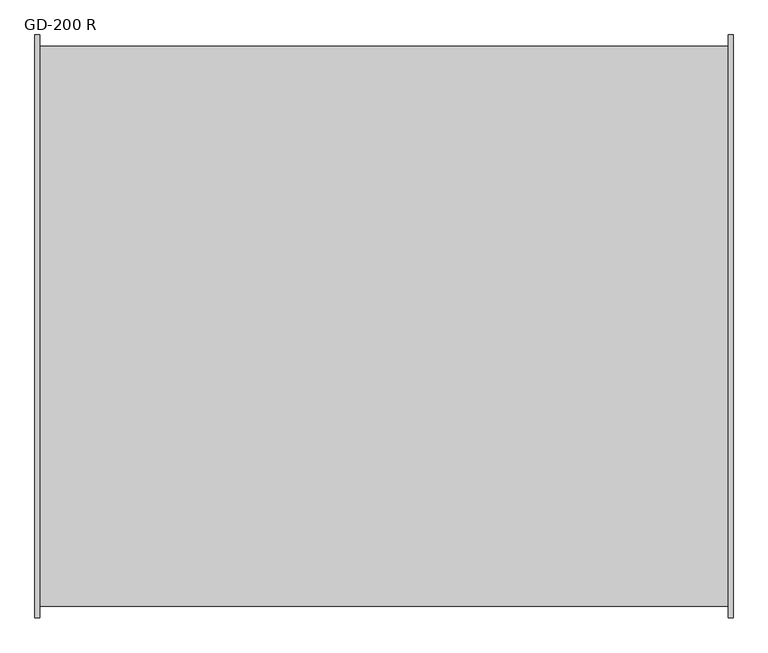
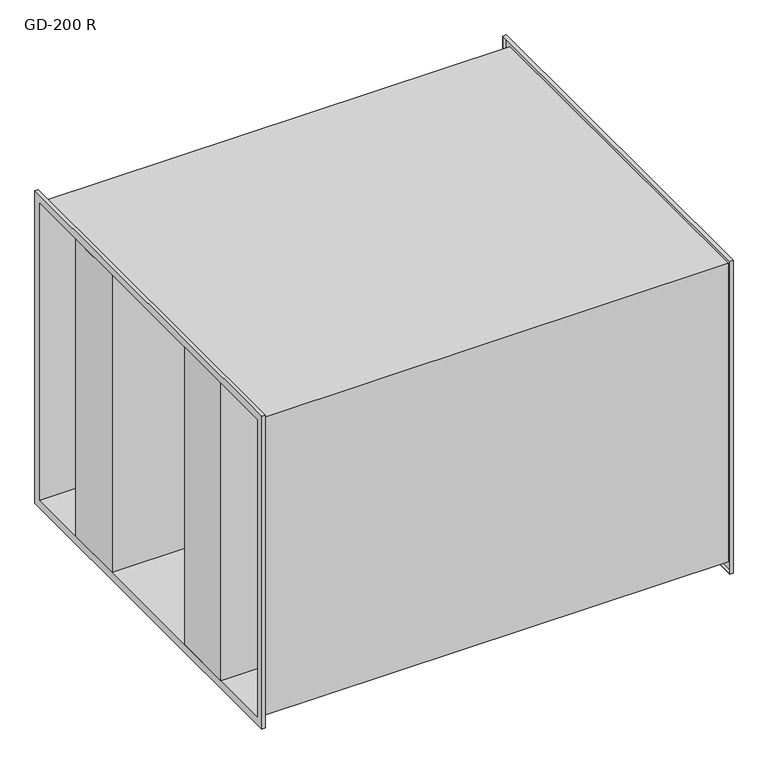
"""IFC4 building model written with IfcOpenShell, lengths in millimetres: damper geometry, NLRS_57_DUA_UN_Coulissengeluiddempers_SMA : GD-200 R."""

import ifcopenshell
import ifcopenshell.guid

model = None  # the IFC model being written
_history = None  # IfcOwnerHistory: only IFC2X3 demands one
_inside = {}  # id of a spatial element -> (the spatial element, [elements in it])
_under = {}  # id of a project, library or spatial element -> (it, [spatial elements below it])
_declared = {}  # id of a project -> (the project, [libraries it declares])
_typed = {}  # id of a type object -> (the type object, [elements of that type])
_made_of = {}  # id of a material, layer set ... -> (it, [elements and type objects made of it])


def new_model(schema):
    """Start an empty IFC model of exactly this schema.

    Asked for "IFC4X3", IfcOpenShell would pick the latest addendum, in which some entities
    have other attributes; the version numbers below select the first issue.
    IFC2X3 requires an IfcOwnerHistory on every rooted entity: one is made here for all.
    """
    global model, _history
    if schema == "IFC4X3":
        model = ifcopenshell.file(schema_version=(4, 3, 0, 0))
    else:
        model = ifcopenshell.file(schema=schema)
    _inside.clear()
    _under.clear()
    _declared.clear()
    _typed.clear()
    _made_of.clear()
    _history = None
    if model.schema == "IFC2X3":
        org = make("IfcOrganization", Name="unknown")
        user = make(
            "IfcPersonAndOrganization",
            ThePerson=make("IfcPerson", FamilyName="unknown"),
            TheOrganization=org,
        )
        app = make(
            "IfcApplication",
            ApplicationDeveloper=org,
            Version="unknown",
            ApplicationFullName="unknown",
            ApplicationIdentifier="unknown",
        )
        _history = make(
            "IfcOwnerHistory",
            OwningUser=user,
            OwningApplication=app,
            ChangeAction="ADDED",
            CreationDate=0,
        )
    return model


def make(cls, **values):
    """One entity of the class cls with the attributes given. An attribute that is None is left unset."""
    return model.create_entity(
        cls, **{name: value for name, value in values.items() if value is not None}
    )


def rooted(cls, **values):
    """An entity with a GlobalId (a new one), such as an element, a storey or a relation."""
    return make(cls, GlobalId=ifcopenshell.guid.new(), OwnerHistory=_history, **values)


def si_unit(unit_type, name, prefix=None):
    """IfcSIUnit, for example si_unit("LENGTHUNIT", "METRE", prefix="MILLI")."""
    return make("IfcSIUnit", UnitType=unit_type, Prefix=prefix, Name=name)


def assignment(units):
    """IfcUnitAssignment: the units of a project."""
    return None if units is None else make("IfcUnitAssignment", Units=units)


def point(xyz):
    """IfcCartesianPoint."""
    return None if xyz is None else make("IfcCartesianPoint", Coordinates=xyz)


def direction(xyz):
    """IfcDirection."""
    return None if xyz is None else make("IfcDirection", DirectionRatios=xyz)


def frame(location, z_axis=None, x_axis=None):
    """IfcAxis2Placement3D, a coordinate frame: its origin and axes. An axis left out is left unset."""
    return make(
        "IfcAxis2Placement3D",
        Location=point(location),
        Axis=direction(z_axis),
        RefDirection=direction(x_axis),
    )


def origin():
    """The frame at (0, 0, 0) with its axes left unset."""
    return frame((0.0, 0.0, 0.0))


def place(relative_to, where):
    """IfcLocalPlacement: puts the frame where relative to a parent placement (None: the world)."""
    return make(
        "IfcLocalPlacement", PlacementRelTo=relative_to, RelativePlacement=where
    )


def context(
    kind, dimensions, precision=None, world=None, true_north=None, identifier=None
):
    """IfcGeometricRepresentationContext, for example the 3D "Model" context."""
    return make(
        "IfcGeometricRepresentationContext",
        ContextIdentifier=identifier,
        ContextType=kind,
        CoordinateSpaceDimension=dimensions,
        Precision=precision,
        WorldCoordinateSystem=world,
        TrueNorth=true_north,
    )


def project(units=None, contexts=None):
    """IfcProject with its units and contexts."""
    return rooted(
        "IfcProject",
        Name="project",
        RepresentationContexts=contexts,
        UnitsInContext=assignment(units),
    )


def spatial(cls, under=None, at=None, **own):
    """A site, building, storey or space (cls), placed at a placement, below another one or the project."""
    s = rooted(cls, ObjectPlacement=at, **own)
    if under is not None:
        _under.setdefault(under.id(), (under, []))[1].append(s)
    return s


def polyline(points):
    """IfcPolyline through the points."""
    return make("IfcPolyline", Points=[point(p) for p in points])


def outline(outer, holes=None, kind="AREA"):
    """IfcArbitraryClosedProfileDef: a profile drawn as a closed curve; with holes, ...WithVoids."""
    if holes is None:
        return make("IfcArbitraryClosedProfileDef", ProfileType=kind, OuterCurve=outer)
    return make(
        "IfcArbitraryProfileDefWithVoids",
        ProfileType=kind,
        OuterCurve=outer,
        InnerCurves=holes,
    )


def extrude(swept, where, along, depth):
    """IfcExtrudedAreaSolid: the profile swept, set in the frame where, extruded along a direction by depth."""
    return make(
        "IfcExtrudedAreaSolid",
        SweptArea=swept,
        Position=where,
        ExtrudedDirection=direction(along),
        Depth=depth,
    )


def faces_of(points, faces, orient=None, outer=None):
    """IfcFace entities. A face is a list of loops; a loop is a list of indices into points, from 0.

    orient and outer hold one flag for each loop. By default every Orientation is true, the
    first loop of a face is its IfcFaceOuterBound and the others are IfcFaceBound.
    """
    made = []
    for i, loops in enumerate(faces):
        bounds = []
        for j, loop in enumerate(loops):
            is_outer = j == 0 if outer is None else outer[i][j]
            bounds.append(
                make(
                    "IfcFaceOuterBound" if is_outer else "IfcFaceBound",
                    Bound=make("IfcPolyLoop", Polygon=[points[k] for k in loop]),
                    Orientation=True if orient is None else orient[i][j],
                )
            )
        made.append(make("IfcFace", Bounds=bounds))
    return made


def faceted_brep(points, faces, orient=None, outer=None, voids=None):
    """IfcFacetedBrep: a solid bounded by flat faces; with voids (closed shells), ...WithVoids."""
    shared = [point(p) for p in points]
    hull = make("IfcClosedShell", CfsFaces=faces_of(shared, faces, orient, outer))
    if voids is None:
        return make("IfcFacetedBrep", Outer=hull)
    return make(
        "IfcFacetedBrepWithVoids",
        Outer=hull,
        Voids=[
            make(cls, CfsFaces=faces_of(shared, fs, o, b)) for cls, fs, o, b in voids
        ],
    )


def shape(context_of_items, identifier, shape_type, items):
    """IfcShapeRepresentation: the items that make up one representation, for example the "Body"."""
    return make(
        "IfcShapeRepresentation",
        ContextOfItems=context_of_items,
        RepresentationIdentifier=identifier,
        RepresentationType=shape_type,
        Items=items,
    )


def source(mapping_origin, context_of_items, identifier, shape_type, items):
    """IfcRepresentationMap: a shape defined once, which mapped items show again and again."""
    return make(
        "IfcRepresentationMap",
        MappingOrigin=mapping_origin,
        MappedRepresentation=shape(context_of_items, identifier, shape_type, items),
    )


def transform(
    local_origin,
    x_axis=None,
    y_axis=None,
    z_axis=None,
    scale=None,
    scale2=None,
    scale3=None,
    uniform=True,
):
    """IfcCartesianTransformationOperator3D, or its non-uniform kind. x_axis, y_axis, z_axis: its Axis1, 2, 3."""
    if uniform:
        return make(
            "IfcCartesianTransformationOperator3D",
            Axis1=direction(x_axis),
            Axis2=direction(y_axis),
            LocalOrigin=point(local_origin),
            Scale=scale,
            Axis3=direction(z_axis),
        )
    return make(
        "IfcCartesianTransformationOperator3DnonUniform",
        Axis1=direction(x_axis),
        Axis2=direction(y_axis),
        LocalOrigin=point(local_origin),
        Scale=scale,
        Axis3=direction(z_axis),
        Scale2=scale2,
        Scale3=scale3,
    )


def mapped(mapping_source, mapping_target):
    """IfcMappedItem: shows the shape of a source again, moved by a transform."""
    return make(
        "IfcMappedItem", MappingSource=mapping_source, MappingTarget=mapping_target
    )


def made_of(thing, what):
    """Note that an element or type object is made of a material, layer set ...; save() writes the relation."""
    if what is not None:
        _made_of.setdefault(what.id(), (what, []))[1].append(thing)
    return thing


def element(
    cls,
    number,
    at=None,
    inside=None,
    cuts=None,
    type_object=None,
    material=None,
    context=None,
    identifier="Body",
    shape_type=None,
    held_by="IfcProductDefinitionShape",
    body=None,
    shapes=None,
    **own,
):
    """One element of the class cls, such as IfcWall. Its Tag is "e" and its number.

    at: its placement. inside: the storey or other place that contains it. cuts: it is an
    opening in that element (IfcRelVoidsElement). A single representation is given by context,
    identifier, shape_type and body (its items); several are given by shapes. held_by: the class
    of the entity that holds the representations. save() writes the other relations.
    """
    e = rooted(cls, Tag="e%d" % number, ObjectPlacement=at, **own)
    if body is not None:
        shapes = [shape(context, identifier, shape_type, body)]
    if shapes is not None:
        e.Representation = make(held_by, Representations=shapes)
    if inside is not None:
        _inside.setdefault(inside.id(), (inside, []))[1].append(e)
    if cuts is not None:
        rooted(
            "IfcRelVoidsElement", RelatingBuildingElement=cuts, RelatedOpeningElement=e
        )
    if type_object is not None:
        _typed.setdefault(type_object.id(), (type_object, []))[1].append(e)
    return made_of(e, material)


def aggregate(whole, parts):
    """IfcRelAggregates: a whole, such as a stair, and the parts it consists of."""
    return rooted("IfcRelAggregates", RelatingObject=whole, RelatedObjects=parts)


def save(model, path):
    """Write the relations noted so far, then the file.

    IfcRelAggregates (storeys below a building ...), IfcRelContainedInSpatialStructure (elements
    in a storey), IfcRelDefinesByType, IfcRelAssociatesMaterial and IfcRelDeclares: one each for
    every whole, place, type object, material and project.
    """
    for whole, parts in _under.values():
        aggregate(whole, parts)
    for where, things in _inside.values():
        rooted(
            "IfcRelContainedInSpatialStructure",
            RelatedElements=things,
            RelatingStructure=where,
        )
    for kind, things in _typed.values():
        rooted("IfcRelDefinesByType", RelatedObjects=things, RelatingType=kind)
    for what, things in _made_of.values():
        rooted("IfcRelAssociatesMaterial", RelatedObjects=things, RelatingMaterial=what)
    for by, libraries in _declared.values():
        rooted("IfcRelDeclares", RelatingContext=by, RelatedDefinitions=libraries)
    model.write(path)


def gd_200_r_bc078321(model_context):
    return source(origin(), model_context, "Body", "SolidModel", [
        extrude(outline(polyline([(-750.0, 400.0), (750.0, 400.0), (750.0, 200.0), (-750.0, 200.0), (-750.0, 400.0)])), frame((0.0, 0.0, -500.0), z_axis=(0.0, 0.0, 1.0), x_axis=(1.0, 0.0, 0.0)), (0.0, 0.0, 1.0), 1000.0),
        extrude(outline(polyline([(-750.0, -200.0), (750.0, -200.0), (750.0, -400.0), (-750.0, -400.0), (-750.0, -200.0)])), frame((0.0, 0.0, -500.0), z_axis=(0.0, 0.0, 1.0), x_axis=(1.0, 0.0, 0.0)), (0.0, 0.0, 1.0), 1000.0),
        faceted_brep([(-748.0, 602.0, 502.0), (748.0, 602.0, 502.0), (748.0, 602.0, -502.0), (-748.0, 602.0, -502.0), (-739.5, 624.0, 524.0), (-748.0, 624.0, 524.0), (-748.0, 624.0, -524.0), (-739.5, 624.0, -524.0), (-750.0, 626.0, 526.0), (-739.5, 626.0, 526.0), (-739.5, 626.0, -526.0), (-750.0, 626.0, -526.0), (750.0, 600.0, 500.0), (-750.0, 600.0, 500.0), (-750.0, 600.0, -500.0), (750.0, 600.0, -500.0), (739.5, 626.0, 526.0), (750.0, 626.0, 526.0), (750.0, 626.0, -526.0), (739.5, 626.0, -526.0), (748.0, 624.0, 524.0), (739.5, 624.0, 524.0), (739.5, 624.0, -524.0), (748.0, 624.0, -524.0), (748.0, -602.0, -502.0), (-748.0, -602.0, -502.0), (-748.0, -624.0, -524.0), (-739.5, -624.0, -524.0), (-739.5, -626.0, -526.0), (-750.0, -626.0, -526.0), (-750.0, -600.0, -500.0), (750.0, -600.0, -500.0), (750.0, -626.0, -526.0), (739.5, -626.0, -526.0), (739.5, -624.0, -524.0), (748.0, -624.0, -524.0), (748.0, -602.0, 502.0), (-748.0, -602.0, 502.0), (-748.0, -624.0, 524.0), (-739.5, -624.0, 524.0), (-739.5, -626.0, 526.0), (-750.0, -626.0, 526.0), (-750.0, -600.0, 500.0), (750.0, -600.0, 500.0), (750.0, -626.0, 526.0), (739.5, -626.0, 526.0), (739.5, -624.0, 524.0), (748.0, -624.0, 524.0)], [[[0, 1, 2, 3]], [[4, 5, 6, 7]], [[8, 9, 10, 11]], [[12, 13, 14, 15]], [[16, 17, 18, 19]], [[20, 21, 22, 23]], [[3, 2, 24, 25]], [[7, 6, 26, 27]], [[11, 10, 28, 29]], [[15, 14, 30, 31]], [[19, 18, 32, 33]], [[23, 22, 34, 35]], [[25, 24, 36, 37]], [[27, 26, 38, 39]], [[29, 28, 40, 41]], [[31, 30, 42, 43]], [[33, 32, 44, 45]], [[35, 34, 46, 47]], [[23, 35, 47, 20], [1, 36, 24, 2]], [[37, 36, 1, 0]], [[5, 38, 26, 6], [3, 25, 37, 0]], [[39, 38, 5, 4]], [[9, 40, 28, 10], [7, 27, 39, 4]], [[41, 40, 9, 8]], [[11, 29, 41, 8], [13, 42, 30, 14]], [[43, 42, 13, 12]], [[17, 44, 32, 18], [15, 31, 43, 12]], [[45, 44, 17, 16]], [[19, 33, 45, 16], [21, 46, 34, 22]], [[47, 46, 21, 20]]]),
    ])


if __name__ == "__main__":
    model = new_model("IFC4")
    model_context = context("Model", 3, world=origin())
    ifc_project = project(units=[si_unit("LENGTHUNIT", "METRE", prefix="MILLI")], contexts=[model_context])
    site = spatial("IfcSite", under=ifc_project)
    building = spatial("IfcBuilding", under=site)
    placement = place(None, origin())
    gd_200_r_shape = gd_200_r_bc078321(model_context)
    element("IfcDamper", 1, ObjectType="NLRS_57_DUA_UN_Coulissengeluiddempers_SMA : GD-200 R", at=placement, inside=building, context=model_context, shape_type="MappedRepresentation", body=[
        mapped(gd_200_r_shape, transform((0.0, 0.0, 0.0), x_axis=(1.0, 0.0, 0.0), y_axis=(0.0, 1.0, 0.0), z_axis=(0.0, 0.0, 1.0))),
    ])
    save(model, "model.ifc")
